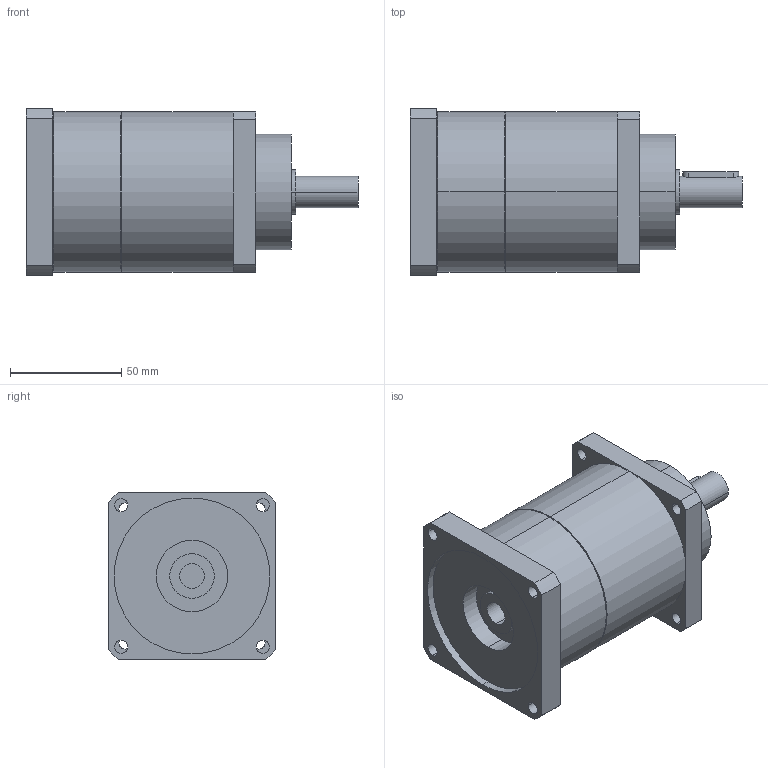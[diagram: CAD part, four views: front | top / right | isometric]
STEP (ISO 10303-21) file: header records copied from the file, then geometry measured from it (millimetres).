
FILE_DESCRIPTION(('CoCreate Modeling STEP Export'),'2;1');
FILE_NAME('GPT75_ig-9-12-16-20-25-28-35-40-50-70-100_14_B5T_11_P24.stp','2014-08-27T13:34:40',(''),(''),'CoCreate Modeling STEP processor for AP214 (Solid Model)','CoCreate Modeling 16.00C 25-Feb-2009 (C) Parametric Technology GmbH','');
FILE_SCHEMA(('AUTOMOTIVE_DESIGN { 1 0 10303 214 1 1 1 1 }'));
Length unit declared in the file: millimetre
Products named in the file (2): GPT75_ig-9-12-16-20-25-28-35-40-50-70-100_14_B5T_11_P24
Assembly tree (1 placements, depth 2):
  GPT75_ig-9-12-16-20-25-28-35-40-50-70-100_14_B5T_11_P24
    GPT75_ig-9-12-16-20-25-28-35-40-50-70-100_14_B5T_11_P24
Bounding box: 149 x 75 x 75 mm (x, y, z)
Volume: 462861.4 mm3; surface area: 46668.8 mm2
Topology: 1 solids, 1 shells, 77 faces, 191 edges, 126 vertices
Faces by surface type: cylinder 46, plane 27, cone 4
Entity records: 2469 total; most frequent: CARTESIAN_POINT 716, ORIENTED_EDGE 382, DIRECTION 320, EDGE_CURVE 191, VERTEX_POINT 126, AXIS2_PLACEMENT_3D 118, EDGE_LOOP 103, VECTOR 84
